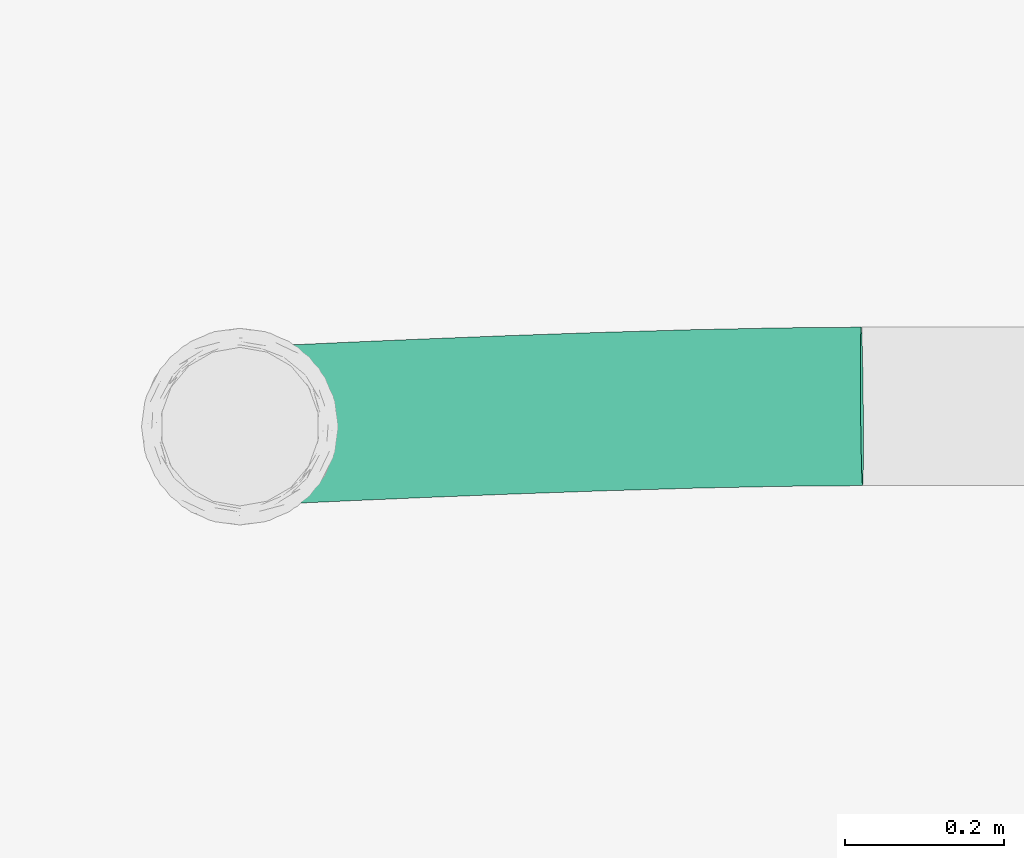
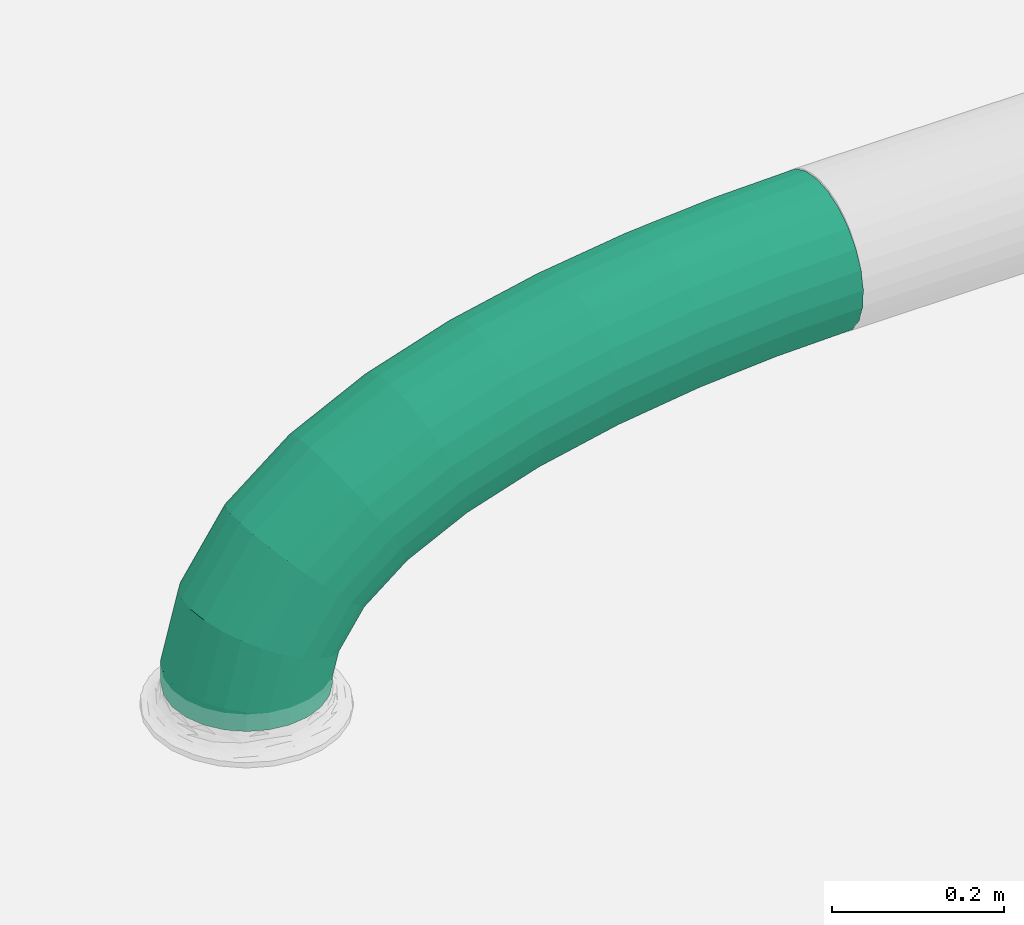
# One storey, part 16 of 31: 1 flow segment.
"""IFC2X3 building model written with IfcOpenShell, lengths in millimetres."""

from ifc_helpers import new_model, entity, si_unit, converted_unit, derived_unit, direction, frame, origin, place, context, subcontext, project, spatial, faceted_brep, type_object, element, save


model = new_model("IFC2X3")

# Units and contexts
model_context = context("Model", 3, precision=0.01, world=origin(), true_north=direction((6.123031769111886e-17, 1.0)))
body_context = subcontext(model_context, "Body", "Model", "MODEL_VIEW")
ifc_project = project(units=[si_unit("LENGTHUNIT", "METRE", prefix="MILLI"), si_unit("AREAUNIT", "SQUARE_METRE"), si_unit("VOLUMEUNIT", "CUBIC_METRE"), converted_unit("PLANEANGLEUNIT", "DEGREE", entity("IfcRatioMeasure", 0.017453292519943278), si_unit("PLANEANGLEUNIT", "RADIAN"), dimensions=[0, 0, 0, 0, 0, 0, 0]), si_unit("MASSUNIT", "GRAM", prefix="KILO"), derived_unit("MASSDENSITYUNIT", [(si_unit("MASSUNIT", "GRAM", prefix="KILO"), 1), (si_unit("LENGTHUNIT", "METRE"), -3)]), derived_unit("MOMENTOFINERTIAUNIT", [(si_unit("LENGTHUNIT", "METRE"), 4)]), si_unit("TIMEUNIT", "SECOND"), si_unit("FREQUENCYUNIT", "HERTZ"), si_unit("THERMODYNAMICTEMPERATUREUNIT", "DEGREE_CELSIUS"), derived_unit("THERMALTRANSMITTANCEUNIT", [(si_unit("MASSUNIT", "GRAM", prefix="KILO"), 1), (si_unit("THERMODYNAMICTEMPERATUREUNIT", "KELVIN"), -1), (si_unit("TIMEUNIT", "SECOND"), -3)]), derived_unit("VOLUMETRICFLOWRATEUNIT", [(si_unit("LENGTHUNIT", "METRE"), 3), (si_unit("TIMEUNIT", "SECOND"), -1)]), derived_unit("MASSFLOWRATEUNIT", [(si_unit("MASSUNIT", "GRAM", prefix="KILO"), 1), (si_unit("TIMEUNIT", "SECOND"), -1)]), derived_unit("ROTATIONALFREQUENCYUNIT", [(si_unit("TIMEUNIT", "SECOND"), -1)]), si_unit("ELECTRICCURRENTUNIT", "AMPERE"), si_unit("ELECTRICVOLTAGEUNIT", "VOLT"), si_unit("POWERUNIT", "WATT"), si_unit("FORCEUNIT", "NEWTON", prefix="KILO"), si_unit("ILLUMINANCEUNIT", "LUX"), si_unit("LUMINOUSFLUXUNIT", "LUMEN"), si_unit("LUMINOUSINTENSITYUNIT", "CANDELA"), derived_unit("USERDEFINED", [(si_unit("MASSUNIT", "GRAM", prefix="KILO"), -1), (si_unit("LENGTHUNIT", "METRE"), -2), (si_unit("TIMEUNIT", "SECOND"), 3), (si_unit("LUMINOUSFLUXUNIT", "LUMEN"), 1)]), derived_unit("SOUNDPOWERUNIT", [(si_unit("MASSUNIT", "GRAM", prefix="KILO"), 1), (si_unit("LENGTHUNIT", "METRE"), 2), (si_unit("TIMEUNIT", "SECOND"), -3)]), derived_unit("SOUNDPRESSUREUNIT", [(si_unit("MASSUNIT", "GRAM", prefix="KILO"), 1), (si_unit("LENGTHUNIT", "METRE"), -1), (si_unit("TIMEUNIT", "SECOND"), -2)]), derived_unit("LINEARVELOCITYUNIT", [(si_unit("LENGTHUNIT", "METRE"), 1), (si_unit("TIMEUNIT", "SECOND"), -1)]), si_unit("PRESSUREUNIT", "PASCAL"), derived_unit("USERDEFINED", [(si_unit("LENGTHUNIT", "METRE"), -2), (si_unit("MASSUNIT", "GRAM", prefix="KILO"), 1), (si_unit("TIMEUNIT", "SECOND"), -2)]), derived_unit("LINEARFORCEUNIT", [(si_unit("MASSUNIT", "GRAM", prefix="KILO"), 1), (si_unit("LENGTHUNIT", "METRE"), 1), (si_unit("TIMEUNIT", "SECOND"), -2), (si_unit("LENGTHUNIT", "METRE"), -1)]), derived_unit("PLANARFORCEUNIT", [(si_unit("MASSUNIT", "GRAM", prefix="KILO"), 1), (si_unit("LENGTHUNIT", "METRE"), 1), (si_unit("TIMEUNIT", "SECOND"), -2), (si_unit("LENGTHUNIT", "METRE"), -2)])], contexts=[model_context])

# Site, building, storey
site_placement = place(None, origin())
site = spatial("IfcSite", under=ifc_project, at=site_placement, Name="Default", CompositionType="ELEMENT")
building_placement = place(site_placement, origin())
building = spatial("IfcBuilding", under=site, at=building_placement, CompositionType="ELEMENT")
storey_placement = place(building_placement, frame((0.0, 0.0, 3880.0)))
storey = spatial("IfcBuildingStorey", under=building, at=storey_placement, Name="Niveau 1", CompositionType="ELEMENT", Elevation=3880.0)

# Flow segment
duct_segment_type = type_object("IfcDuctSegmentType", Name="Gaine flexible circulaire:Souple - Circulaire piquage Aldes", PredefinedType="FLEXIBLESEGMENT")
flow_segment_placement = place(storey_placement, frame((-5021.595272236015, -23337.147805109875, 2827.5000000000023)))
element("IfcFlowSegment", 1, at=flow_segment_placement, inside=storey, type_object=duct_segment_type, Name="Gaine flexible circulaire:Souple - Circulaire piquage Aldes", ObjectType="Gaine flexible circulaire:Souple - Circulaire piquage Aldes", context=body_context, shape_type="Brep", body=[
    faceted_brep([(30.88459411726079, 30.884594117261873, 0.0), (14.992731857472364, 51.59527223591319, 0.0), (5.002689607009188, 75.71336772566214, 0.0), (1.5952722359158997, 101.59527223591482, 0.0), (5.002689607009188, 127.47717674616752, 0.0), (14.992731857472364, 151.59527223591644, 0.0), (30.88459411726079, 172.30595035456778, 0.0), (51.59527223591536, 188.19781261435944, 0.0), (75.71336772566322, 198.18785486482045, 0.0), (101.5952722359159, 201.59527223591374, 0.0), (127.4771767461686, 198.18785486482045, 0.0), (151.5952722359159, 188.19781261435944, 0.0), (172.30595035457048, 172.30595035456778, 0.0), (188.19781261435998, 151.59527223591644, 0.0), (198.1878548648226, 127.47717674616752, 0.0), (201.5952722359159, 101.59527223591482, 0.0), (198.1878548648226, 75.71336772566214, 0.0), (188.19781261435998, 51.59527223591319, 0.0), (172.30595035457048, 30.884594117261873, 0.0), (151.5952722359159, 14.992731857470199, 0.0), (127.4771767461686, 5.002689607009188, 0.0), (101.5952722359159, 1.5952722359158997, 0.0), (75.7133677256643, 5.002689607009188, 0.0), (51.59527223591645, 14.992731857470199, 0.0), (188.19781261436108, 51.59527223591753, 9.046955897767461), (172.30595035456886, 30.884594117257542, 11.283185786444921), (198.1878548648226, 75.71336772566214, 7.568123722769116), (201.5952722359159, 101.59527223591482, 6.947469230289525), (127.47717674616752, 5.002689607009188, 17.377027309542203), (101.5952722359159, 1.5952722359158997, 20.819353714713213), (151.5952722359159, 14.992731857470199, 14.124418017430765), (75.71336772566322, 5.002689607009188, 24.216808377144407), (51.59527223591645, 14.992731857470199, 27.337860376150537), (30.884594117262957, 30.884594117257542, 29.969815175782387), (14.992731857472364, 51.59527223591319, 31.933309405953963), (5.002689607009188, 75.71336772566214, 33.09453417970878), (1.5952722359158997, 101.59527223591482, 33.37435394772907), (5.002689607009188, 127.47717674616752, 32.75369945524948), (14.992731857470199, 151.59527223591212, 31.27486728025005), (30.88459411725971, 172.30595035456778, 29.038637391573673), (51.59527223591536, 188.19781261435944, 26.19740516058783), (75.71336772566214, 198.18785486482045, 22.94479586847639), (101.59527223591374, 201.59527223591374, 19.502469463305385), (127.47717674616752, 198.18785486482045, 16.105014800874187), (151.59527223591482, 188.19781261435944, 12.983962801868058), (172.30595035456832, 172.3059503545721, 10.352008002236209), (198.1878548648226, 127.47717674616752, 7.227288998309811), (188.1978126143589, 151.59527223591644, 8.38851377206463), (884.0930333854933, 131.23711161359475, 422.4008557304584), (884.3581913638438, 105.23848425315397, 420.0589460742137), (884.7252009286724, 80.73294090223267, 411.0685554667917), (885.1690509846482, 59.39049384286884, 396.04236417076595), (885.6594938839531, 42.66559557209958, 376.0043822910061), (886.1631067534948, 31.698020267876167, 352.3201651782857), (886.6455692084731, 27.235190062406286, 326.60375308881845), (887.0740022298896, 29.58123945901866, 300.6076770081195), (887.419208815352, 38.576289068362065, 276.10352656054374), (887.6576637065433, 53.60734112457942, 254.761219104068), (887.7731165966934, 73.65005427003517, 238.03519762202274), (887.7576995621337, 97.33855072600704, 227.06531283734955), (887.6124632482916, 123.05849860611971, 222.59914426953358), (887.3473052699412, 149.05712596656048, 224.94105392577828), (886.9802957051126, 173.56266931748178, 233.93144453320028), (886.5364456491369, 194.9051163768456, 248.95763582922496), (886.0460027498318, 211.63001464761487, 268.99561770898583), (885.5423898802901, 222.59758995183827, 292.67983482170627), (885.0599274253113, 227.06042015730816, 318.39624691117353), (884.6314944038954, 224.7143707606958, 344.3923229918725), (884.2862878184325, 215.71932115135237, 368.89647343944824), (884.0478329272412, 200.68826909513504, 390.238780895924), (883.932380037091, 180.64555594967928, 406.96480237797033), (883.9477970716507, 156.95705949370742, 417.93468716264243), (208.10592831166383, 76.20759755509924, 44.44147786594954), (199.01267593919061, 52.134190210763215, 49.25439008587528), (211.13905088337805, 102.07085049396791, 42.42927240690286), (184.47898388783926, 31.49119138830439, 56.54001705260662), (143.35532877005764, 5.7939175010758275, 76.40872594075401), (119.56787483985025, 2.4908691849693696, 87.63778818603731), (165.4952992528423, 15.685387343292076, 65.80185532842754), (95.7540131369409, 6.001339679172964, 98.72380002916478), (73.53661898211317, 16.086096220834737, 108.91126808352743), (54.42977107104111, 32.05787931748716, 117.50593323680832), (39.73556951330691, 52.828238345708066, 123.9220832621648), (30.45539986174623, 76.98170766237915, 127.72246813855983), (27.221690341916, 102.8722682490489, 128.64809791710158), (30.254812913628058, 128.73552118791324, 126.6358924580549), (39.34806528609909, 152.80892853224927, 121.82298023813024), (53.881757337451, 173.4519273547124, 114.5373532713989), (72.86544197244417, 189.25773139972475, 105.27551499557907), (95.00541245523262, 199.14920124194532, 94.6686443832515), (118.7928663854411, 202.45224955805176, 83.43958213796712), (142.6067280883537, 198.94177906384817, 72.35357029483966), (164.82412224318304, 188.8570225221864, 62.16610224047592), (183.93097015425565, 172.88523942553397, 53.57143708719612), (198.62517171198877, 152.11488039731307, 47.15528706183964), (207.9053413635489, 127.96141108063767, 43.35490218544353), (238.23378066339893, 77.65735516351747, 87.16465341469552), (231.30736241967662, 53.688216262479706, 95.05027170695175), (240.37280690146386, 103.4775840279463, 83.8845635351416), (220.06557612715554, 33.20362453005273, 107.00402655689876), (187.94221215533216, 7.93944625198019, 139.63571018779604), (169.2497886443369, 4.881571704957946, 158.08984365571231), (205.27453094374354, 17.59957104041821, 122.21128932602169), (150.47111818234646, 8.634336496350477, 176.31607103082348), (132.88593612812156, 18.941995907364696, 193.07230503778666), (117.69264357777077, 35.102099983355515, 207.2166360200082), (105.9266383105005, 56.01336433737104, 217.78515119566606), (98.38975414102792, 80.25072086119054, 224.05762372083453), (95.59561727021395, 106.16243376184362, 225.60659495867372), (97.73464350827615, 131.9826626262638, 222.32650507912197), (104.66106175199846, 155.9518015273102, 214.44088678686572), (115.90284804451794, 176.4363932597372, 202.48713193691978), (130.6938932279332, 192.0404467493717, 187.2798691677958), (148.02621201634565, 201.70057153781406, 169.85544830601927), (166.71863552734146, 204.75844608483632, 151.40131483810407), (185.49730598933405, 201.00568129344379, 133.17508746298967), (203.0824880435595, 190.69802188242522, 116.41885345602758), (218.2757805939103, 174.53791780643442, 102.27452247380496), (230.0417858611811, 153.62665345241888, 91.70600729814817), (237.57867003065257, 129.38929692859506, 85.43353477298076), (291.5180454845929, 80.10239460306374, 126.39240846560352), (286.9744645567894, 56.242596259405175, 136.0322661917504), (292.692479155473, 105.87836149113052, 122.40218772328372), (279.37137390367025, 35.924972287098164, 150.66482052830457), (257.2324059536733, 11.118945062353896, 190.64699389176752), (244.2052627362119, 8.321031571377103, 213.2718938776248), (269.22691158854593, 20.534135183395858, 169.29288707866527), (231.03326021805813, 12.331067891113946, 235.62573749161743), (218.61404860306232, 22.875776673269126, 256.18514723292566), (207.7939766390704, 39.236553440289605, 273.549033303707), (199.31041434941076, 60.29843829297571, 286.53407556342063), (193.74150248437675, 84.62609858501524, 294.2553648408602), (191.46675318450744, 110.56164447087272, 296.18670803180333), (192.6411868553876, 136.33761135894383, 292.19648728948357), (197.184767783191, 160.19740970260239, 282.55662956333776), (204.78785843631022, 180.5150336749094, 267.9240752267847), (214.93232075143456, 195.9058707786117, 249.29600867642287), (226.92682638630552, 205.32106089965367, 227.9419018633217), (239.95396960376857, 208.11897439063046, 205.31700187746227), (253.1259721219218, 204.10893807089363, 182.96315826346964), (265.54518373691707, 193.56422928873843, 162.40374852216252), (276.36525570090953, 177.20345252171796, 145.03986245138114), (284.8488179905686, 156.14156766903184, 132.05482019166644), (290.41772985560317, 131.81390737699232, 124.33353091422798), (369.2531174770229, 83.45510846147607, 160.9637250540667), (366.46653193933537, 59.6710893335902, 171.38497581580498), (369.74216904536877, 109.20151481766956, 156.66869258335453), (361.5723136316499, 39.470299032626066, 187.2222538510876), (346.916012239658, 14.986999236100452, 230.53221257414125), (338.15273187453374, 12.37298616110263, 255.05339114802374), (354.9039954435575, 24.229388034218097, 207.39627483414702), (329.21135742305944, 16.5654894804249, 279.2887327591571), (320.70122877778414, 27.27879702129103, 301.586638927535), (313.2022971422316, 43.7828145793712, 320.4275441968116), (307.2256023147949, 64.95282063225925, 334.5274720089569), (303.1784461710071, 89.34611425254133, 342.92553558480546), (301.3366357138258, 115.3003327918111, 345.04942077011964), (301.8256872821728, 141.04673914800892, 340.75438829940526), (304.6122728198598, 164.83075827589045, 330.333137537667), (309.5064911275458, 185.03154857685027, 314.4958595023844), (316.1748093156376, 200.27245957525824, 294.32183851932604), (324.1627925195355, 209.51484837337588, 271.1859007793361), (332.9260728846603, 212.1288614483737, 246.6647222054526), (341.86744733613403, 207.93635812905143, 222.42938059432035), (350.37757598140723, 197.22305058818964, 200.13147442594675), (357.8765076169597, 180.7190330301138, 181.29056915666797), (363.85320244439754, 159.54902697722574, 167.19064134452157), (367.90035858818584, 135.155733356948, 158.79257776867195), (465.0268481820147, 87.2550134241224, 188.06972197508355), (463.4298612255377, 63.51819264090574, 198.8276543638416), (465.0843327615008, 112.98429698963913, 183.65254689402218), (460.4022039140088, 43.39145974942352, 215.19320874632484), (450.9636343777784, 19.11517794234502, 259.97989624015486), (445.1959450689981, 16.620017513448, 285.34889061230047), (456.1502060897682, 28.246418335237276, 236.05109963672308), (439.2401966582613, 20.930978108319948, 310.4292277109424), (433.50226355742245, 31.754274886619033, 333.5117240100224), (428.3731764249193, 48.352318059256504, 353.0233455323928), (424.20247407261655, 69.59397841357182, 367.6344075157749), (421.27438297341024, 94.03167189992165, 376.34919023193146), (419.7884476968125, 120.00001009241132, 378.5737956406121), (419.84593227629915, 145.72929365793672, 374.1566205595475), (421.44291923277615, 169.46611444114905, 363.39868817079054), (424.47057654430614, 189.59284733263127, 347.0331337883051), (428.72257436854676, 204.7378887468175, 326.1752428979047), (433.909146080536, 213.86912913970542, 302.24644629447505), (439.67683538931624, 216.36428956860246, 276.8774519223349), (445.63258380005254, 212.0533289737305, 251.79711482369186), (451.3705169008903, 201.23003219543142, 228.71461852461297), (456.499604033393, 184.63198902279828, 209.20299700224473), (460.6703063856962, 163.39032866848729, 194.5919350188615), (463.59839748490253, 138.95263518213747, 185.87715230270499), (571.445852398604, 91.00449157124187, 207.24758273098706), (570.6359332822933, 67.29540167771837, 218.14735329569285), (571.2606384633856, 116.72522410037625, 202.78667074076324), (568.8860757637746, 47.21368971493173, 234.74318108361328), (563.0994736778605, 23.066078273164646, 280.187992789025), (559.4570764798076, 20.645798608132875, 305.93998788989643), (566.31552974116, 32.12789116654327, 255.9040878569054), (555.6365614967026, 25.031990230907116, 331.4051172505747), (551.8982905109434, 35.925741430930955, 354.8479743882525), (548.4970205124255, 52.58466106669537, 374.67096733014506), (545.6645424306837, 73.87347129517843, 389.5231918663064), (543.5938849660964, 98.34137488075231, 398.3924934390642), (542.4261600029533, 124.32092462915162, 400.6744438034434), (542.2409460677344, 150.04165715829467, 396.2135318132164), (543.0508651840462, 173.75074705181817, 385.3137612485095), (544.8007227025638, 193.83245901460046, 368.7179334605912), (547.3712687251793, 208.91825756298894, 347.55702668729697), (550.5873247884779, 217.98007045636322, 323.27312175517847), (554.2297219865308, 220.400350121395, 297.52112665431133), (558.0502369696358, 216.01415849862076, 272.05599729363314), (561.788507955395, 205.12040729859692, 248.6131401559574), (565.1897779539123, 188.46148766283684, 228.79014721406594), (568.0222560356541, 167.17267743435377, 213.93792267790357), (570.0929135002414, 142.70477384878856, 205.06862110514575), (681.4762845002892, 94.22979809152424, 219.25183688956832), (681.163391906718, 70.53527746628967, 230.20583274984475), (681.2001685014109, 119.94786602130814, 214.78100753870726), (680.2828138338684, 50.47904656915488, 246.89649840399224), (677.0932382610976, 26.40756139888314, 292.62464414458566), (675.0016050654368, 24.032739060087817, 318.54582666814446), (678.8945602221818, 35.42790439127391, 268.18639257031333), (672.7622019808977, 28.46527759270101, 344.1834543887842), (670.5276406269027, 39.403106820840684, 367.79036534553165), (668.4502026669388, 56.10083175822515, 387.7577875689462), (666.6714620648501, 77.4205300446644, 402.72497423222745), (665.3126370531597, 101.90929947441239, 411.67193629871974), (664.4663293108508, 127.8982708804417, 413.98895308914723), (664.1902133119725, 153.61633881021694, 409.51812373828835), (664.5031059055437, 177.31085943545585, 398.564127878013), (665.3836839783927, 197.36709033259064, 381.87346222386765), (666.7719375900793, 212.41823251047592, 360.58356805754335), (668.5732595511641, 221.4385755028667, 336.14531648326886), (670.6648927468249, 223.813397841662, 310.224133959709), (672.9042958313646, 219.38085930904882, 284.58650623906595), (675.1388571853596, 208.44303008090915, 260.9795952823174), (677.2162951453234, 191.74530514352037, 241.0121730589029), (678.9950357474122, 170.42560685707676, 226.04498639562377), (680.3538607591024, 145.93683742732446, 217.0980243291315), (788.4619294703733, 96.48022793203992, 225.35139053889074), (788.4061820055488, 72.79111632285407, 236.3200469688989), (788.2462304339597, 122.19956672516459, 220.88400572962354), (788.0827871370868, 52.74660570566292, 253.04247921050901), (786.7379483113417, 28.71392434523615, 298.87579860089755), (785.8081528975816, 26.363541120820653, 324.86322077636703), (787.5137836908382, 37.71269635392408, 274.37908114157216), (784.7877614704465, 30.821721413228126, 350.57034779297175), (783.7463120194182, 41.78464760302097, 374.2452814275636), (782.754777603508, 58.50521438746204, 394.2746140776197), (781.8807296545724, 79.8439427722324, 409.2933798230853), (781.1837330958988, 104.34663368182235, 418.27807459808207), (780.7112870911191, 130.3434692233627, 420.6164063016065), (780.4955880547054, 156.06280801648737, 416.1490214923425), (780.5513355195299, 179.75191962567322, 405.18036506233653), (780.8747303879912, 199.79643024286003, 388.4579328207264), (781.4437338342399, 214.8303395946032, 367.1213308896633), (782.2195692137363, 223.82911160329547, 342.62461343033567), (783.1493646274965, 226.17949482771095, 316.63719125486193), (784.1697560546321, 221.7213145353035, 290.93006423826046), (785.2112055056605, 210.75838834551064, 267.25513060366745), (786.2027399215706, 194.0378215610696, 247.22579795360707), (787.0767878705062, 172.69909317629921, 232.20703220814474), (787.7737844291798, 148.1964022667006, 223.22233743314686)], [[[0, 1, 2, 3, 4, 5, 6, 7, 8, 9, 10, 11, 12, 13, 14, 15, 16, 17, 18, 19, 20, 21, 22, 23]], [[17, 24, 25, 18]], [[26, 24, 17, 16]], [[15, 27, 26, 16]], [[28, 29, 21, 20]], [[30, 28, 20, 19]], [[25, 30, 19, 18]], [[23, 22, 31, 32]], [[0, 23, 32, 33]], [[21, 29, 31, 22]], [[2, 1, 34, 35]], [[3, 2, 35, 36]], [[33, 34, 1, 0]], [[3, 36, 37, 4]], [[4, 37, 38, 5]], [[5, 38, 39, 6]], [[7, 40, 41, 8]], [[8, 41, 42, 9]], [[6, 39, 40, 7]], [[43, 44, 11, 10]], [[42, 43, 10, 9]], [[11, 44, 45, 12]], [[46, 27, 15, 14]], [[47, 46, 14, 13]], [[12, 45, 47, 13]], [[48, 49, 50, 51, 52, 53, 54, 55, 56, 57, 58, 59, 60, 61, 62, 63, 64, 65, 66, 67, 68, 69, 70, 71]], [[72, 73, 24, 26]], [[74, 72, 26, 27]], [[25, 24, 73, 75]], [[76, 77, 29, 28]], [[78, 76, 28, 30]], [[75, 78, 30, 25]], [[31, 29, 77, 79]], [[32, 31, 79, 80]], [[33, 32, 80, 81]], [[35, 34, 82, 83]], [[36, 35, 83, 84]], [[81, 82, 34, 33]], [[36, 84, 85, 37]], [[37, 85, 86, 38]], [[38, 86, 87, 39]], [[39, 87, 88, 40]], [[40, 88, 89, 41]], [[90, 42, 41, 89]], [[91, 92, 44, 43]], [[90, 91, 43, 42]], [[93, 45, 44, 92]], [[94, 95, 46, 47]], [[94, 47, 45, 93]], [[74, 27, 46, 95]], [[96, 97, 73, 72]], [[98, 96, 72, 74]], [[99, 75, 73, 97]], [[100, 101, 77, 76]], [[102, 100, 76, 78]], [[102, 78, 75, 99]], [[77, 101, 103, 79]], [[79, 103, 104, 80]], [[105, 81, 80, 104]], [[82, 106, 107, 83]], [[83, 107, 108, 84]], [[106, 82, 81, 105]], [[85, 84, 108, 109]], [[86, 85, 109, 110]], [[110, 111, 87, 86]], [[88, 87, 111, 112]], [[89, 88, 112, 113]], [[90, 89, 113, 114]], [[115, 116, 92, 91]], [[114, 115, 91, 90]], [[93, 92, 116, 117]], [[118, 119, 95, 94]], [[117, 118, 94, 93]], [[74, 95, 119, 98]], [[120, 121, 97, 96]], [[122, 120, 96, 98]], [[123, 99, 97, 121]], [[124, 125, 101, 100]], [[126, 124, 100, 102]], [[126, 102, 99, 123]], [[101, 125, 127, 103]], [[103, 127, 128, 104]], [[129, 105, 104, 128]], [[106, 130, 131, 107]], [[107, 131, 132, 108]], [[130, 106, 105, 129]], [[109, 108, 132, 133]], [[110, 109, 133, 134]], [[134, 135, 111, 110]], [[112, 111, 135, 136]], [[113, 112, 136, 137]], [[114, 113, 137, 138]], [[139, 140, 116, 115]], [[138, 139, 115, 114]], [[117, 116, 140, 141]], [[142, 143, 119, 118]], [[141, 142, 118, 117]], [[98, 119, 143, 122]], [[144, 145, 121, 120]], [[146, 144, 120, 122]], [[147, 123, 121, 145]], [[148, 149, 125, 124]], [[150, 148, 124, 126]], [[150, 126, 123, 147]], [[125, 149, 151, 127]], [[127, 151, 152, 128]], [[153, 129, 128, 152]], [[130, 154, 155, 131]], [[131, 155, 156, 132]], [[154, 130, 129, 153]], [[133, 132, 156, 157]], [[134, 133, 157, 158]], [[158, 159, 135, 134]], [[136, 135, 159, 160]], [[137, 136, 160, 161]], [[138, 137, 161, 162]], [[163, 164, 140, 139]], [[162, 163, 139, 138]], [[141, 140, 164, 165]], [[166, 167, 143, 142]], [[165, 166, 142, 141]], [[122, 143, 167, 146]], [[168, 169, 145, 144]], [[170, 168, 144, 146]], [[171, 147, 145, 169]], [[172, 173, 149, 148]], [[174, 172, 148, 150]], [[174, 150, 147, 171]], [[149, 173, 175, 151]], [[151, 175, 176, 152]], [[177, 153, 152, 176]], [[154, 178, 179, 155]], [[155, 179, 180, 156]], [[178, 154, 153, 177]], [[157, 156, 180, 181]], [[158, 157, 181, 182]], [[182, 183, 159, 158]], [[160, 159, 183, 184]], [[161, 160, 184, 185]], [[162, 161, 185, 186]], [[187, 188, 164, 163]], [[186, 187, 163, 162]], [[165, 164, 188, 189]], [[190, 191, 167, 166]], [[189, 190, 166, 165]], [[146, 167, 191, 170]], [[192, 193, 169, 168]], [[194, 192, 168, 170]], [[195, 171, 169, 193]], [[196, 197, 173, 172]], [[198, 196, 172, 174]], [[198, 174, 171, 195]], [[173, 197, 199, 175]], [[175, 199, 200, 176]], [[201, 177, 176, 200]], [[178, 202, 203, 179]], [[179, 203, 204, 180]], [[202, 178, 177, 201]], [[181, 180, 204, 205]], [[182, 181, 205, 206]], [[206, 207, 183, 182]], [[184, 183, 207, 208]], [[185, 184, 208, 209]], [[186, 185, 209, 210]], [[211, 212, 188, 187]], [[210, 211, 187, 186]], [[189, 188, 212, 213]], [[214, 215, 191, 190]], [[213, 214, 190, 189]], [[170, 191, 215, 194]], [[216, 217, 193, 192]], [[218, 216, 192, 194]], [[219, 195, 193, 217]], [[220, 221, 197, 196]], [[222, 220, 196, 198]], [[222, 198, 195, 219]], [[197, 221, 223, 199]], [[199, 223, 224, 200]], [[225, 201, 200, 224]], [[202, 226, 227, 203]], [[204, 203, 227, 228]], [[226, 202, 201, 225]], [[205, 204, 228, 229]], [[206, 205, 229, 230]], [[230, 231, 207, 206]], [[208, 207, 231, 232]], [[209, 208, 232, 233]], [[210, 209, 233, 234]], [[235, 236, 212, 211]], [[234, 235, 211, 210]], [[213, 212, 236, 237]], [[238, 239, 215, 214]], [[237, 238, 214, 213]], [[218, 194, 215, 239]], [[240, 241, 217, 216]], [[242, 240, 216, 218]], [[243, 219, 217, 241]], [[244, 245, 221, 220]], [[246, 244, 220, 222]], [[246, 222, 219, 243]], [[221, 245, 247, 223]], [[223, 247, 248, 224]], [[249, 225, 224, 248]], [[226, 250, 251, 227]], [[228, 227, 251, 252]], [[250, 226, 225, 249]], [[229, 228, 252, 253]], [[230, 229, 253, 254]], [[254, 255, 231, 230]], [[232, 231, 255, 256]], [[233, 232, 256, 257]], [[234, 233, 257, 258]], [[259, 260, 236, 235]], [[258, 259, 235, 234]], [[237, 236, 260, 261]], [[262, 263, 239, 238]], [[261, 262, 238, 237]], [[242, 218, 239, 263]], [[240, 242, 60, 59]], [[240, 59, 58, 241]], [[57, 243, 241, 58]], [[246, 56, 55, 244]], [[244, 55, 54, 245]], [[56, 246, 243, 57]], [[245, 54, 53, 247]], [[247, 53, 52, 248]], [[51, 249, 248, 52]], [[250, 50, 49, 251]], [[251, 49, 48, 252]], [[50, 250, 249, 51]], [[252, 48, 71, 253]], [[254, 253, 71, 70]], [[70, 69, 255, 254]], [[257, 256, 68, 67]], [[258, 257, 67, 66]], [[69, 68, 256, 255]], [[259, 258, 66, 65]], [[260, 259, 65, 64]], [[261, 260, 64, 63]], [[263, 262, 62, 61]], [[242, 263, 61, 60]], [[63, 62, 262, 261]]]),
])

save(model, "model.ifc")
